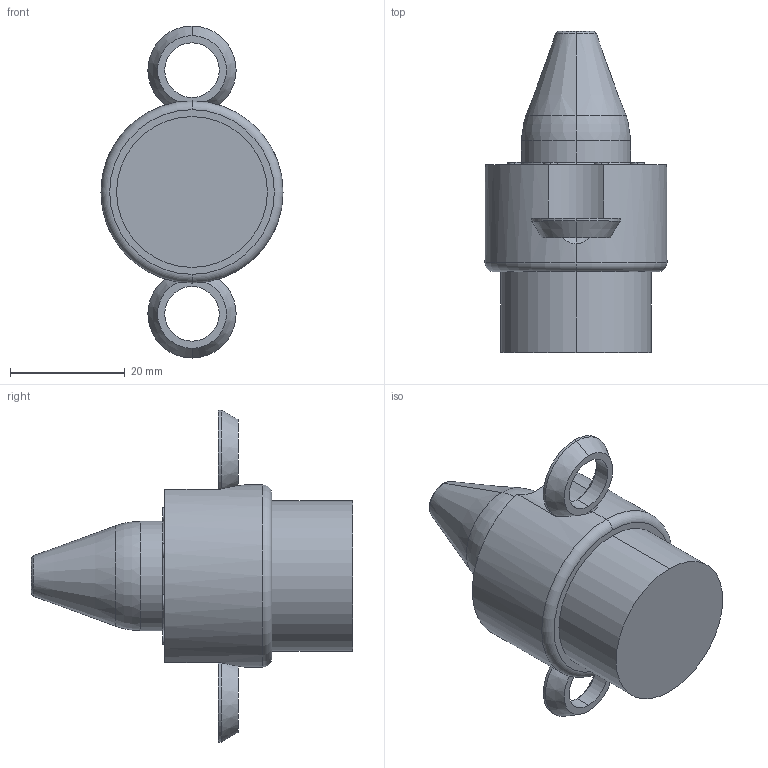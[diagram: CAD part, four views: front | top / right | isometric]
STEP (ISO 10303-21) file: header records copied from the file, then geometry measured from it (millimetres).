
FILE_DESCRIPTION (( 'STEP AP214' ), '1' );
FILE_NAME ('PA-.750-.150-P-F2.stp', '2020-05-01T17:55:49', ( '' ), ( '' ), 'SwSTEP 2.0', 'SolidWorks 2017', '' );
FILE_SCHEMA (( 'AUTOMOTIVE_DESIGN' ));
Length unit declared in the file: inch
Products named in the file (1): PA-.750-.150-P-F2
Bounding box: 31.75 x 56.01 x 57.91 mm (x, y, z)
Volume: 26778.2 mm3; surface area: 6240.5 mm2
Topology: 3 solids, 3 shells, 73 faces, 150 edges, 93 vertices
Faces by surface type: cylinder 32, plane 16, cone 14, torus 11
Entity records: 2082 total; most frequent: CARTESIAN_POINT 393, DIRECTION 386, ORIENTED_EDGE 300, AXIS2_PLACEMENT_3D 170, EDGE_CURVE 150, CIRCLE 96, VERTEX_POINT 93, EDGE_LOOP 87
